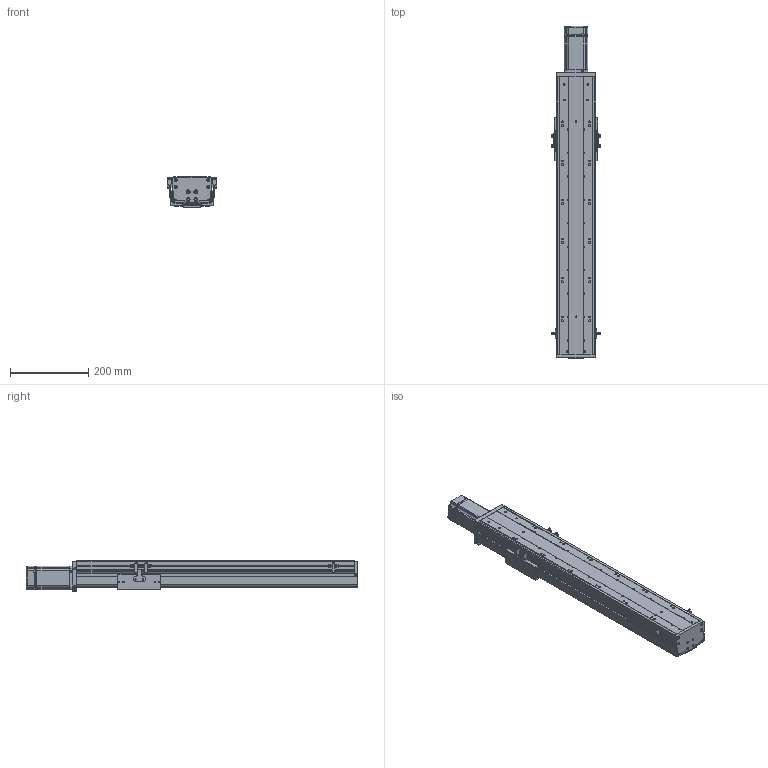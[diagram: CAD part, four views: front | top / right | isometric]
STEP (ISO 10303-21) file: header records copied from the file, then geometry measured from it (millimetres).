
FILE_DESCRIPTION (( 'STEP AP203' ), '1' );
FILE_NAME ('RY100FBS-L1610-300-MK(15双轨）.SLDASM_450.step', '2021-02-22T08:44:14', ( '盈信电脑' ), ( '东莞市道滘镇水果街19号' ), 'SwSTEP 2.0', 'SolidWorks 2012', '' );
FILE_SCHEMA (( 'CONFIG_CONTROL_DESIGN' ));
Length unit declared in the file: millimetre
Products named in the file (12): RY100FBS-L1610-300-MK(15双轨）.SLDASM_450; 覜茼ん672; 15; RY100FB-遵嫖萇覜茼え; 侂狟400W侜督萇儂; RY100FBS-300-上盖板(15双轨）_450; RY100FBS-前盖板(15双轨）; RY100FBS-后盖板(15双轨）; RY100FBS-铝滑块（16丝杆）; 滅袉蝶18-15; 滅袉蝶18-24; RY100FBS-300型材底座(15双轨）_450
Assembly tree (18 placements, depth 3):
  RY100FBS-L1610-300-MK(15双轨）.SLDASM_450
    RY100FBS-300型材底座(15双轨）_450
    滅袉蝶18-24  x2
    滅袉蝶18-15
    RY100FBS-铝滑块（16丝杆）
    RY100FBS-300-上盖板(15双轨）_450
    RY100FBS-前盖板(15双轨）
    RY100FBS-后盖板(15双轨）
    侂狟400W侜督萇儂
      15
    RY100FB-遵嫖萇覜茼え  x2
    覜茼ん672  x6
Bounding box: 127.4 x 850.5 x 78.75 mm (x, y, z)
Volume: 2105929.7 mm3; surface area: 714795.9 mm2
Topology: 17 solids, 17 shells, 1749 faces, 4957 edges, 3248 vertices
Faces by surface type: plane 865, cylinder 752, cone 114, bspline 18
Entity records: 45786 total; most frequent: CARTESIAN_POINT 9587, DIRECTION 7372, ORIENTED_EDGE 7258, EDGE_CURVE 3629, AXIS2_PLACEMENT_3D 2655, VERTEX_POINT 2396, LINE 2062, VECTOR 2062
